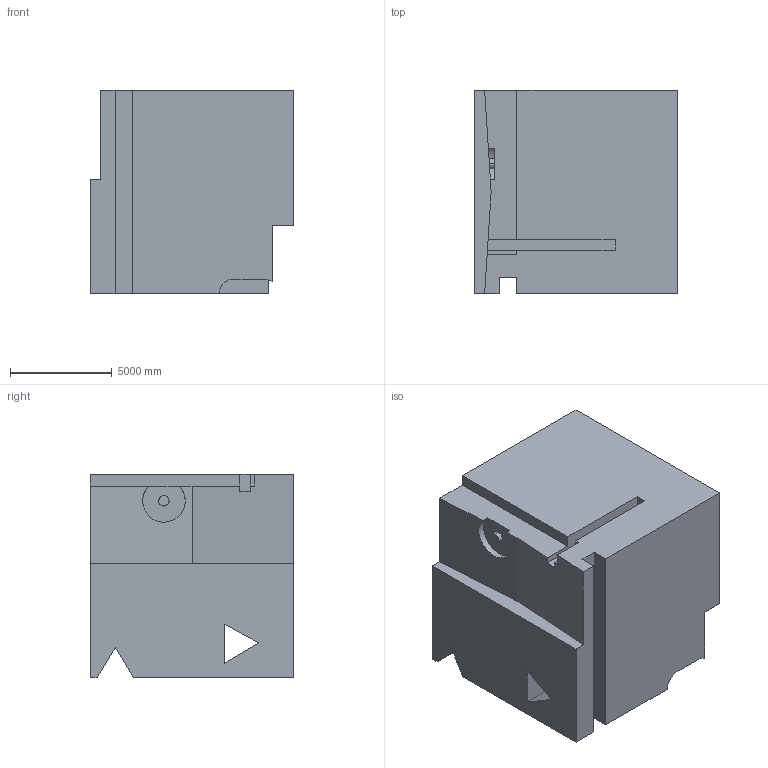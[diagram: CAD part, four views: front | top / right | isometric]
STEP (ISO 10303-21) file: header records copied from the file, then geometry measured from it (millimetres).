
FILE_DESCRIPTION (( 'STEP AP203' ), '1' );
FILE_NAME ('195.STEP', '2022-09-06T14:43:51', ( 'user' ), ( '' ), 'SwSTEP 2.0', 'SolidWorks 2021', '' );
FILE_SCHEMA (( 'CONFIG_CONTROL_DESIGN' ));
Length unit declared in the file: centimetre
Products named in the file (1): 195
Bounding box: 10000 x 10000 x 10000 mm (x, y, z)
Volume: 867218660698.3 mm3; surface area: 673312532.2 mm2
Topology: 1 solids, 1 shells, 44 faces, 120 edges, 80 vertices
Faces by surface type: plane 39, cylinder 5
Entity records: 1455 total; most frequent: CARTESIAN_POINT 260, ORIENTED_EDGE 240, DIRECTION 213, EDGE_CURVE 120, LINE 109, VECTOR 109, VERTEX_POINT 80, AXIS2_PLACEMENT_3D 52
